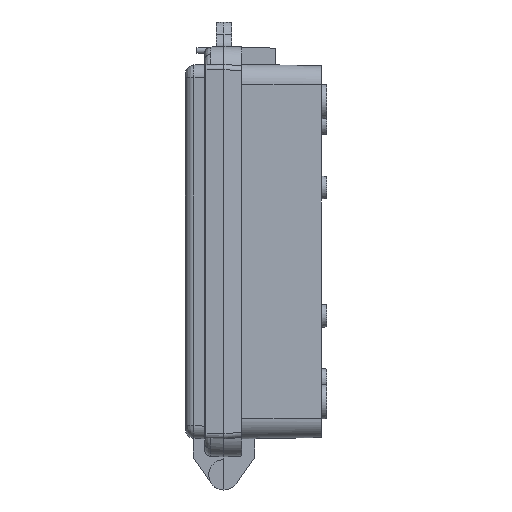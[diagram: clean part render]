
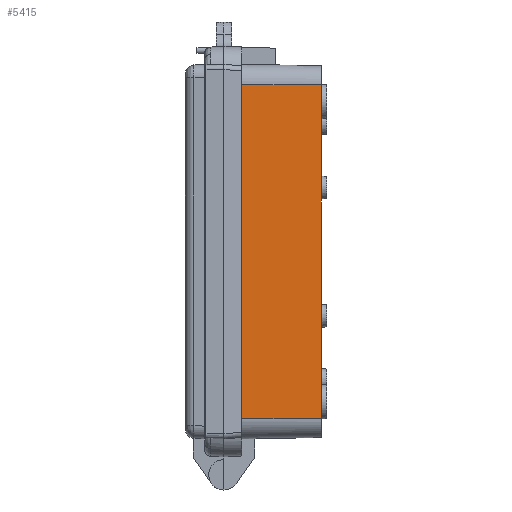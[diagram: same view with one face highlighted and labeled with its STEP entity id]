
A CAD part, left-side view. The second image highlights one B-rep face of the part: STEP entity #5415.
In plain terms, the highlighted planar face has unit normal (-1, -0.018, 0).
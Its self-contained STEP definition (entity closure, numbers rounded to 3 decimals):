
#59 = CARTESIAN_POINT ( 'NONE',  ( -113.07, -3., 43.6 ) ) ;
#187 = CARTESIAN_POINT ( 'NONE',  ( -113.07, -3., 65.071 ) ) ;
#249 = DIRECTION ( 'NONE',  ( 0., 0., -1. ) ) ;
#723 = LINE ( 'NONE', #13956, #3016 ) ;
#939 = DIRECTION ( 'NONE',  ( -1., -0.017, 0. ) ) ;
#990 = ORIENTED_EDGE ( 'NONE', *, *, #7269, .T. ) ;
#1054 = CARTESIAN_POINT ( 'NONE',  ( -113.07, -3., -74.993 ) ) ;
#1099 = CARTESIAN_POINT ( 'NONE',  ( -113.113, -0.518, -46.617 ) ) ;
#1201 = ORIENTED_EDGE ( 'NONE', *, *, #20994, .T. ) ;
#1444 = EDGE_CURVE ( 'NONE', #3573, #14923, #9472, .T. ) ;
#1496 = VERTEX_POINT ( 'NONE', #14850 ) ;
#2222 = VERTEX_POINT ( 'NONE', #16225 ) ;
#2287 = CARTESIAN_POINT ( 'NONE',  ( -113., -7., -74.993 ) ) ;
#2481 = FACE_OUTER_BOUND ( 'NONE', #15803, .T. ) ;
#2688 = EDGE_CURVE ( 'NONE', #17394, #1496, #14317, .T. ) ;
#2699 = CARTESIAN_POINT ( 'NONE',  ( -113., -7., -1.05 ) ) ;
#2876 = DIRECTION ( 'NONE',  ( 0., 0., -1. ) ) ;
#2938 = CARTESIAN_POINT ( 'NONE',  ( -113.07, -3., -74.993 ) ) ;
#3014 = EDGE_CURVE ( 'NONE', #19168, #7551, #17656, .T. ) ;
#3016 = VECTOR ( 'NONE', #14062, 1000. ) ;
#3118 = ORIENTED_EDGE ( 'NONE', *, *, #7694, .T. ) ;
#3341 = VECTOR ( 'NONE', #7136, 1000. ) ;
#3558 = VECTOR ( 'NONE', #7696, 1000. ) ;
#3573 = VERTEX_POINT ( 'NONE', #8557 ) ;
#3693 = LINE ( 'NONE', #10544, #4557 ) ;
#3884 = CARTESIAN_POINT ( 'NONE',  ( -113.07, -3., -74.993 ) ) ;
#3976 = LINE ( 'NONE', #9371, #5956 ) ;
#4108 = CARTESIAN_POINT ( 'NONE',  ( -113.249, 7.294, 42.699 ) ) ;
#4155 = VERTEX_POINT ( 'NONE', #6423 ) ;
#4368 = ORIENTED_EDGE ( 'NONE', *, *, #12681, .T. ) ;
#4418 = DIRECTION ( 'NONE',  ( 0., 0., -1. ) ) ;
#4439 = DIRECTION ( 'NONE',  ( -0.017, 0.996, -0.087 ) ) ;
#4557 = VECTOR ( 'NONE', #17361, 1000. ) ;
#4831 = VECTOR ( 'NONE', #4439, 1000. ) ;
#4857 = VERTEX_POINT ( 'NONE', #18079 ) ;
#5249 = CARTESIAN_POINT ( 'NONE',  ( -112.886, -13.537, 45.478 ) ) ;
#5336 = EDGE_CURVE ( 'NONE', #8283, #15724, #5355, .T. ) ;
#5350 = LINE ( 'NONE', #13715, #21203 ) ;
#5355 = LINE ( 'NONE', #5249, #17655 ) ;
#5396 = CARTESIAN_POINT ( 'NONE',  ( -113.07, -3., 46.4 ) ) ;
#5415 = ADVANCED_FACE ( 'NONE', ( #2481 ), #11099, .T. ) ;
#5611 = DIRECTION ( 'NONE',  ( 0., 0., -1. ) ) ;
#5675 = VECTOR ( 'NONE', #10804, 1000. ) ;
#5852 = VECTOR ( 'NONE', #2876, 1000. ) ;
#5956 = VECTOR ( 'NONE', #4418, 1000. ) ;
#5971 = ORIENTED_EDGE ( 'NONE', *, *, #18514, .F. ) ;
#6288 = EDGE_CURVE ( 'NONE', #4155, #13326, #5350, .T. ) ;
#6423 = CARTESIAN_POINT ( 'NONE',  ( -113.07, -3., -1.4 ) ) ;
#6533 = CARTESIAN_POINT ( 'NONE',  ( -113., -7., -43.95 ) ) ;
#7136 = DIRECTION ( 'NONE',  ( 0., 0., -1. ) ) ;
#7269 = EDGE_CURVE ( 'NONE', #7551, #8283, #14298, .T. ) ;
#7551 = VERTEX_POINT ( 'NONE', #187 ) ;
#7694 = EDGE_CURVE ( 'NONE', #4857, #17844, #12390, .T. ) ;
#7696 = DIRECTION ( 'NONE',  ( 0.017, -1., 0. ) ) ;
#8283 = VERTEX_POINT ( 'NONE', #5396 ) ;
#8544 = VECTOR ( 'NONE', #10637, 1000. ) ;
#8557 = CARTESIAN_POINT ( 'NONE',  ( -113., -7., -46.05 ) ) ;
#8754 = DIRECTION ( 'NONE',  ( 0., 0., -1. ) ) ;
#9186 = CARTESIAN_POINT ( 'NONE',  ( -113., -7., -74.993 ) ) ;
#9273 = DIRECTION ( 'NONE',  ( -0.017, 1., 0. ) ) ;
#9371 = CARTESIAN_POINT ( 'NONE',  ( -112.459, -38., -74.993 ) ) ;
#9472 = LINE ( 'NONE', #1099, #5675 ) ;
#9612 = VECTOR ( 'NONE', #9273, 1000. ) ;
#10544 = CARTESIAN_POINT ( 'NONE',  ( -113.022, -5.725, -43.838 ) ) ;
#10637 = DIRECTION ( 'NONE',  ( 0., 0., -1. ) ) ;
#10715 = DIRECTION ( 'NONE',  ( -0.017, 0.996, -0.087 ) ) ;
#10721 = ORIENTED_EDGE ( 'NONE', *, *, #2688, .T. ) ;
#10765 = ORIENTED_EDGE ( 'NONE', *, *, #18766, .T. ) ;
#10785 = LINE ( 'NONE', #2287, #3341 ) ;
#10804 = DIRECTION ( 'NONE',  ( -0.017, 0.996, -0.087 ) ) ;
#10906 = CARTESIAN_POINT ( 'NONE',  ( -113.07, -3., -65.071 ) ) ;
#10958 = ORIENTED_EDGE ( 'NONE', *, *, #6288, .T. ) ;
#11099 = PLANE ( 'NONE',  #19070 ) ;
#11628 = CARTESIAN_POINT ( 'NONE',  ( -112.459, -38., 65.071 ) ) ;
#11703 = CARTESIAN_POINT ( 'NONE',  ( -113., -7., 43.95 ) ) ;
#11835 = LINE ( 'NONE', #3884, #19665 ) ;
#12213 = LINE ( 'NONE', #20707, #14409 ) ;
#12361 = LINE ( 'NONE', #19199, #20633 ) ;
#12390 = LINE ( 'NONE', #9186, #8544 ) ;
#12403 = CARTESIAN_POINT ( 'NONE',  ( -113.07, -3., -46.4 ) ) ;
#12414 = VERTEX_POINT ( 'NONE', #59 ) ;
#12681 = EDGE_CURVE ( 'NONE', #14239, #12414, #15869, .T. ) ;
#12739 = DIRECTION ( 'NONE',  ( 0.017, -1., 0. ) ) ;
#13326 = VERTEX_POINT ( 'NONE', #16530 ) ;
#13699 = ORIENTED_EDGE ( 'NONE', *, *, #20620, .T. ) ;
#13715 = CARTESIAN_POINT ( 'NONE',  ( -113.07, -3., -74.993 ) ) ;
#13956 = CARTESIAN_POINT ( 'NONE',  ( -112.954, -9.631, 0.82 ) ) ;
#14062 = DIRECTION ( 'NONE',  ( 0.017, -0.996, -0.087 ) ) ;
#14239 = VERTEX_POINT ( 'NONE', #11703 ) ;
#14298 = LINE ( 'NONE', #2938, #20157 ) ;
#14317 = LINE ( 'NONE', #10906, #3558 ) ;
#14409 = VECTOR ( 'NONE', #5611, 1000. ) ;
#14626 = CARTESIAN_POINT ( 'NONE',  ( -113.07, -3., -65.071 ) ) ;
#14684 = EDGE_CURVE ( 'NONE', #14923, #17394, #11835, .T. ) ;
#14850 = CARTESIAN_POINT ( 'NONE',  ( -112.459, -38., -65.071 ) ) ;
#14923 = VERTEX_POINT ( 'NONE', #12403 ) ;
#15535 = EDGE_CURVE ( 'NONE', #15724, #14239, #12213, .T. ) ;
#15703 = CARTESIAN_POINT ( 'NONE',  ( -113., -7., 46.05 ) ) ;
#15724 = VERTEX_POINT ( 'NONE', #15703 ) ;
#15798 = ORIENTED_EDGE ( 'NONE', *, *, #1444, .T. ) ;
#15803 = EDGE_LOOP ( 'NONE', ( #20205, #15798, #21577, #10721, #5971, #16970, #990, #21132, #16229, #4368, #1201, #13699, #3118, #20766, #10958, #10765 ) ) ;
#15869 = LINE ( 'NONE', #4108, #4831 ) ;
#16196 = CARTESIAN_POINT ( 'NONE',  ( -113.07, -3., 65.071 ) ) ;
#16225 = CARTESIAN_POINT ( 'NONE',  ( -113.07, -3., 1.4 ) ) ;
#16229 = ORIENTED_EDGE ( 'NONE', *, *, #15535, .T. ) ;
#16530 = CARTESIAN_POINT ( 'NONE',  ( -113.07, -3., -43.6 ) ) ;
#16970 = ORIENTED_EDGE ( 'NONE', *, *, #3014, .T. ) ;
#17243 = DIRECTION ( 'NONE',  ( 0.017, -0.996, -0.087 ) ) ;
#17361 = DIRECTION ( 'NONE',  ( 0.017, -0.996, -0.087 ) ) ;
#17394 = VERTEX_POINT ( 'NONE', #14626 ) ;
#17655 = VECTOR ( 'NONE', #17243, 1000. ) ;
#17656 = LINE ( 'NONE', #16196, #9612 ) ;
#17844 = VERTEX_POINT ( 'NONE', #2699 ) ;
#17876 = CARTESIAN_POINT ( 'NONE',  ( -113.07, -3., -74.993 ) ) ;
#18079 = CARTESIAN_POINT ( 'NONE',  ( -113., -7., 1.05 ) ) ;
#18514 = EDGE_CURVE ( 'NONE', #19168, #1496, #3976, .T. ) ;
#18766 = EDGE_CURVE ( 'NONE', #13326, #19107, #3693, .T. ) ;
#19070 = AXIS2_PLACEMENT_3D ( 'NONE', #1054, #939, #12739 ) ;
#19107 = VERTEX_POINT ( 'NONE', #6533 ) ;
#19168 = VERTEX_POINT ( 'NONE', #11628 ) ;
#19199 = CARTESIAN_POINT ( 'NONE',  ( -113.181, 3.388, -1.959 ) ) ;
#19373 = DIRECTION ( 'NONE',  ( 0., 0., -1. ) ) ;
#19665 = VECTOR ( 'NONE', #249, 1000. ) ;
#19741 = LINE ( 'NONE', #17876, #5852 ) ;
#20157 = VECTOR ( 'NONE', #19373, 1000. ) ;
#20176 = EDGE_CURVE ( 'NONE', #19107, #3573, #10785, .T. ) ;
#20205 = ORIENTED_EDGE ( 'NONE', *, *, #20176, .T. ) ;
#20620 = EDGE_CURVE ( 'NONE', #2222, #4857, #723, .T. ) ;
#20633 = VECTOR ( 'NONE', #10715, 1000. ) ;
#20707 = CARTESIAN_POINT ( 'NONE',  ( -113., -7., -74.993 ) ) ;
#20766 = ORIENTED_EDGE ( 'NONE', *, *, #20954, .T. ) ;
#20954 = EDGE_CURVE ( 'NONE', #17844, #4155, #12361, .T. ) ;
#20994 = EDGE_CURVE ( 'NONE', #12414, #2222, #19741, .T. ) ;
#21132 = ORIENTED_EDGE ( 'NONE', *, *, #5336, .T. ) ;
#21203 = VECTOR ( 'NONE', #8754, 1000. ) ;
#21577 = ORIENTED_EDGE ( 'NONE', *, *, #14684, .T. ) ;
